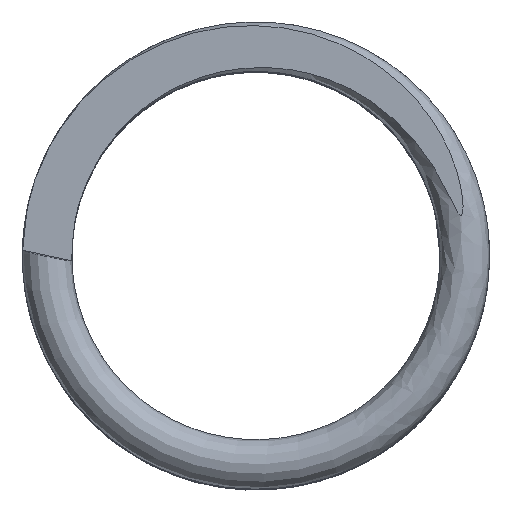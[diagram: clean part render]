
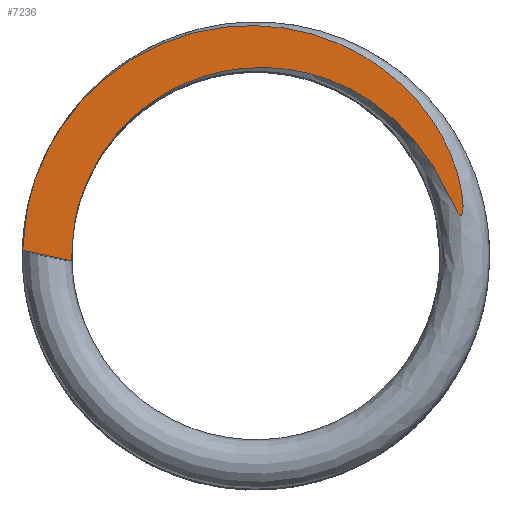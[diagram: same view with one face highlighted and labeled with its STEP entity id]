
A CAD part, top view. The second image highlights one B-rep face of the part: STEP entity #7236.
In plain terms, the highlighted planar face has unit normal (0, 0, 1).
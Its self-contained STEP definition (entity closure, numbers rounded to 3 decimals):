
#110=CARTESIAN_POINT('POINT325',(-11.025,
   -0.168,40.));
#111=VERTEX_POINT('VERTEX325',#110);
#112=CARTESIAN_POINT('POINT326',(-11.034,
   -0.315,40.));
#113=VERTEX_POINT('VERTEX326',#112);
#114=B_SPLINE_CURVE_WITH_KNOTS('SPLINE_CRV201',3,(#115,#116,#117,#118),
   .UNSPECIFIED.,.F.,.F.,(4,4),(-0.032,
   -0.005),.UNSPECIFIED.);
#115=CARTESIAN_POINT('',(-11.025,-0.168,
   40.));
#116=CARTESIAN_POINT('',(-11.028,-0.221,
   40.));
#117=CARTESIAN_POINT('',(-11.032,-0.288,
   40.));
#118=CARTESIAN_POINT('',(-11.034,-0.315,
   40.));
#119=EDGE_CURVE('EDGE489',#111,#113,#114,.T.);
#3935=CARTESIAN_POINT('POINT328',(-13.966,
   0.315,40.));
#3936=VERTEX_POINT('VERTEX328',#3935);
#3937=CARTESIAN_POINT('POS390',(-6.526,
   -1.285,40.));
#3938=DIRECTION('DIR697',(-0.978,0.21,
   0.));
#3939=VECTOR('VEC83',#3938,1.);
#3940=LINE('STRAIGHT83',#3937,#3939);
#3941=EDGE_CURVE('EDGE493',#113,#3936,#3940,.T.);
#3959=B_SPLINE_CURVE_WITH_KNOTS('SPLINE_CRV204',3,(#3960,#3961,#3962,
   #3963,#3964,#3965,#3966,#3967,#3968,#3969,#3970,#3971,#3972,#3973,
   #3974,#3975,#3976,#3977,#3978,#3979,#3980,#3981,#3982,#3983,#3984,
   #3985,#3986,#3987,#3988,#3989,#3990,#3991,#3992,#3993,#3994,#3995,
   #3996,#3997,#3998,#3999,#4000,#4001,#4002,#4003,#4004,#4005,#4006,
   #4007,#4008,#4009,#4010,#4011,#4012,#4013),.UNSPECIFIED.,.F.,.F.,(4,2
   ,2,2,2,2,2,2,2,2,2,2,2,2,2,2,2,2,2,2,2,2,2,2,2,2,4),(
   -92.91,-81.943,-75.153,
   -69.263,-64.208,-59.221,
   -53.874,-47.748,-40.91,
   -38.219,-37.412,-37.124,
   -36.974,-36.861,-36.741,
   -36.567,-36.243,-35.156,
   -32.461,-28.667,-25.32,
   -21.534,-16.601,-10.761,
   -5.916,-2.765,0.),.UNSPECIFIED.
   );
#3960=CARTESIAN_POINT('',(-13.966,0.315,
   40.));
#3961=CARTESIAN_POINT('',(-13.895,1.583,
   40.));
#3962=CARTESIAN_POINT('',(-13.811,2.9,
   40.));
#3963=CARTESIAN_POINT('',(-12.81,5.68,
   40.));
#3964=CARTESIAN_POINT('',(-12.166,7.074,
   40.));
#3965=CARTESIAN_POINT('',(-10.136,9.685,
   40.));
#3966=CARTESIAN_POINT('',(-8.788,10.992,
   40.));
#3967=CARTESIAN_POINT('',(-5.39,12.897,
   40.));
#3968=CARTESIAN_POINT('',(-3.658,13.462,
   40.));
#3969=CARTESIAN_POINT('',(-0.092,13.874,
   40.));
#3970=CARTESIAN_POINT('',(1.694,13.727,
   40.));
#3971=CARTESIAN_POINT('',(5.232,12.709,
   40.));
#3972=CARTESIAN_POINT('',(6.762,11.844,
   40.));
#3973=CARTESIAN_POINT('',(9.364,9.763,
   40.));
#3974=CARTESIAN_POINT('',(10.399,8.463,
   40.));
#3975=CARTESIAN_POINT('',(11.911,5.732,
   40.));
#3976=CARTESIAN_POINT('',(12.257,4.397,
   40.));
#3977=CARTESIAN_POINT('',(12.402,3.149,
   40.));
#3978=CARTESIAN_POINT('',(12.405,2.864,
   40.));
#3979=CARTESIAN_POINT('',(12.374,2.617,
   40.));
#3980=CARTESIAN_POINT('',(12.362,2.549,
   40.));
#3981=CARTESIAN_POINT('',(12.334,2.477,
   40.));
#3982=CARTESIAN_POINT('',(12.324,2.457,
   40.));
#3983=CARTESIAN_POINT('',(12.305,2.432,
   40.));
#3984=CARTESIAN_POINT('',(12.297,2.424,
   40.));
#3985=CARTESIAN_POINT('',(12.282,2.414,
   40.));
#3986=CARTESIAN_POINT('',(12.274,2.411,
   40.));
#3987=CARTESIAN_POINT('',(12.258,2.407,
   40.));
#3988=CARTESIAN_POINT('',(12.25,2.407,
   40.));
#3989=CARTESIAN_POINT('',(12.229,2.411,
   40.));
#3990=CARTESIAN_POINT('',(12.218,2.416,
   40.));
#3991=CARTESIAN_POINT('',(12.187,2.434,
   40.));
#3992=CARTESIAN_POINT('',(12.168,2.452,
   40.));
#3993=CARTESIAN_POINT('',(12.091,2.537,
   40.));
#3994=CARTESIAN_POINT('',(12.023,2.649,
   40.));
#3995=CARTESIAN_POINT('',(11.762,3.146,
   40.));
#3996=CARTESIAN_POINT('',(11.518,3.707,
   40.));
#3997=CARTESIAN_POINT('',(10.659,5.326,
   40.));
#3998=CARTESIAN_POINT('',(9.925,6.507,
   40.));
#3999=CARTESIAN_POINT('',(7.793,8.668,
   40.));
#4000=CARTESIAN_POINT('',(6.639,9.497,
   40.));
#4001=CARTESIAN_POINT('',(3.909,10.798,
   40.));
#4002=CARTESIAN_POINT('',(2.498,11.114,
   40.));
#4003=CARTESIAN_POINT('',(-0.373,11.346,
   40.));
#4004=CARTESIAN_POINT('',(-1.806,11.118,
   40.));
#4005=CARTESIAN_POINT('',(-4.337,10.361,
   40.));
#4006=CARTESIAN_POINT('',(-5.627,9.692,
   40.));
#4007=CARTESIAN_POINT('',(-7.688,8.062,
   40.));
#4008=CARTESIAN_POINT('',(-8.731,7.001,
   40.));
#4009=CARTESIAN_POINT('',(-10.125,4.522,
   40.));
#4010=CARTESIAN_POINT('',(-10.552,3.414,
   40.));
#4011=CARTESIAN_POINT('',(-10.94,1.559,
   40.));
#4012=CARTESIAN_POINT('',(-10.974,0.752,
   40.));
#4013=CARTESIAN_POINT('',(-11.025,-0.168,
   40.));
#4014=EDGE_CURVE('EDGE495',#3936,#111,#3959,.T.);
#7226=ORIENTED_EDGE('COEDGE988',*,*,#4014,.F.);
#7227=ORIENTED_EDGE('COEDGE989',*,*,#3941,.F.);
#7228=ORIENTED_EDGE('COEDGE990',*,*,#119,.F.);
#7229=EDGE_LOOP('NONE',(#7226,#7227,#7228));
#7230=FACE_BOUND('LOOP1',#7229,.T.);
#7231=CARTESIAN_POINT('POS393',(0.,0.,40.));
#7232=DIRECTION('DIR702',(0.,0.,1.));
#7233=DIRECTION('DIR703',(1.,0.,0.));
#7234=AXIS2_PLACEMENT_3D('AXIS310',#7231,#7232,#7233);
#7235=PLANE('PLANE121',#7234);
#7236=ADVANCED_FACE('FACE233',(#7230),#7235,.T.);
